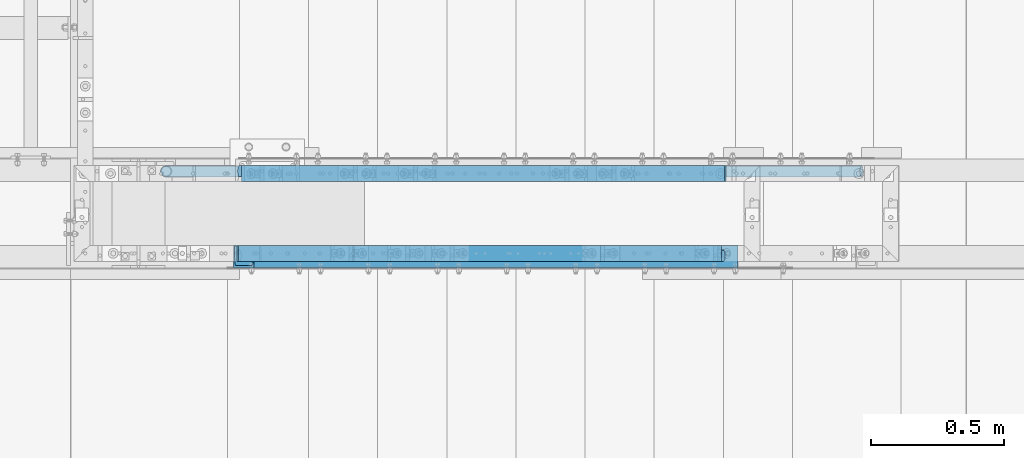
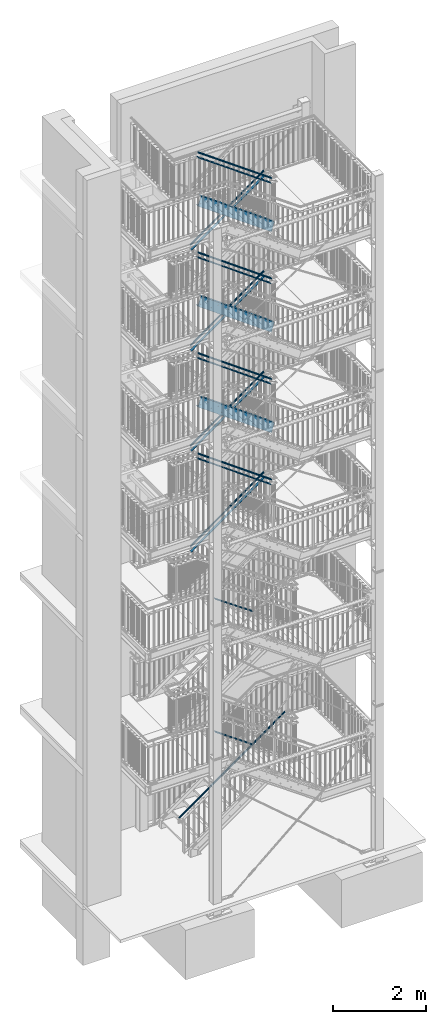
# One storey, part 124 of 831: 22 members, 48 openings.
"""IFC2X3 building model written with IfcOpenShell, lengths in millimetres."""

import ifcopenshell
import ifcopenshell.guid

model = None  # the IFC model being written
_history = None  # IfcOwnerHistory: only IFC2X3 demands one
_inside = {}  # id of a spatial element -> (the spatial element, [elements in it])
_under = {}  # id of a project, library or spatial element -> (it, [spatial elements below it])
_declared = {}  # id of a project -> (the project, [libraries it declares])
_typed = {}  # id of a type object -> (the type object, [elements of that type])
_made_of = {}  # id of a material, layer set ... -> (it, [elements and type objects made of it])


def new_model(schema):
    """Start an empty IFC model of exactly this schema.

    Asked for "IFC4X3", IfcOpenShell would pick the latest addendum, in which some entities
    have other attributes; the version numbers below select the first issue.
    IFC2X3 requires an IfcOwnerHistory on every rooted entity: one is made here for all.
    """
    global model, _history
    if schema == "IFC4X3":
        model = ifcopenshell.file(schema_version=(4, 3, 0, 0))
    else:
        model = ifcopenshell.file(schema=schema)
    _inside.clear()
    _under.clear()
    _declared.clear()
    _typed.clear()
    _made_of.clear()
    _history = None
    if model.schema == "IFC2X3":
        org = make("IfcOrganization", Name="unknown")
        user = make(
            "IfcPersonAndOrganization",
            ThePerson=make("IfcPerson", FamilyName="unknown"),
            TheOrganization=org,
        )
        app = make(
            "IfcApplication",
            ApplicationDeveloper=org,
            Version="unknown",
            ApplicationFullName="unknown",
            ApplicationIdentifier="unknown",
        )
        _history = make(
            "IfcOwnerHistory",
            OwningUser=user,
            OwningApplication=app,
            ChangeAction="ADDED",
            CreationDate=0,
        )
    return model


def make(cls, **values):
    """One entity of the class cls with the attributes given. An attribute that is None is left unset."""
    return model.create_entity(
        cls, **{name: value for name, value in values.items() if value is not None}
    )


def entity(cls, *values):
    """Any entity or typed value of the class cls, its attributes in the order of the schema. None: left unset."""
    e = model.create_entity(cls)
    for i, value in enumerate(values):
        if value is not None:
            e[i] = value
    return e


def rooted(cls, **values):
    """An entity with a GlobalId (a new one), such as an element, a storey or a relation."""
    return make(cls, GlobalId=ifcopenshell.guid.new(), OwnerHistory=_history, **values)


def si_unit(unit_type, name, prefix=None):
    """IfcSIUnit, for example si_unit("LENGTHUNIT", "METRE", prefix="MILLI")."""
    return make("IfcSIUnit", UnitType=unit_type, Prefix=prefix, Name=name)


def converted_unit(unit_type, name, factor, base, dimensions=None, offset=None):
    """IfcConversionBasedUnit, such as the inch: factor (a typed value) times the base unit."""
    return make(
        "IfcConversionBasedUnit"
        if offset is None
        else "IfcConversionBasedUnitWithOffset",
        ConversionOffset=offset,
        Dimensions=None
        if dimensions is None
        else entity("IfcDimensionalExponents", *dimensions),
        UnitType=unit_type,
        Name=name,
        ConversionFactor=make(
            "IfcMeasureWithUnit", ValueComponent=factor, UnitComponent=base
        ),
    )


def assignment(units):
    """IfcUnitAssignment: the units of a project."""
    return None if units is None else make("IfcUnitAssignment", Units=units)


def point(xyz):
    """IfcCartesianPoint."""
    return None if xyz is None else make("IfcCartesianPoint", Coordinates=xyz)


def direction(xyz):
    """IfcDirection."""
    return None if xyz is None else make("IfcDirection", DirectionRatios=xyz)


def frame(location, z_axis=None, x_axis=None):
    """IfcAxis2Placement3D, a coordinate frame: its origin and axes. An axis left out is left unset."""
    return make(
        "IfcAxis2Placement3D",
        Location=point(location),
        Axis=direction(z_axis),
        RefDirection=direction(x_axis),
    )


def frame_2d(location, x_axis=None):
    """IfcAxis2Placement2D, a coordinate frame in the plane: its origin and x axis."""
    return make(
        "IfcAxis2Placement2D", Location=point(location), RefDirection=direction(x_axis)
    )


def origin():
    """The frame at (0, 0, 0) with its axes left unset."""
    return frame((0.0, 0.0, 0.0))


def origin_with_axes():
    """The frame at (0, 0, 0) with the z axis (0, 0, 1) and the x axis (1, 0, 0) written out."""
    return frame((0.0, 0.0, 0.0), z_axis=(0.0, 0.0, 1.0), x_axis=(1.0, 0.0, 0.0))


def origin_2d():
    """The frame at (0, 0) in the plane with its x axis left unset."""
    return frame_2d((0.0, 0.0))


def origin_2d_with_axis():
    """The frame at (0, 0) in the plane with the x axis (1, 0) written out."""
    return frame_2d((0.0, 0.0), x_axis=(1.0, 0.0))


def place(relative_to, where):
    """IfcLocalPlacement: puts the frame where relative to a parent placement (None: the world)."""
    return make(
        "IfcLocalPlacement", PlacementRelTo=relative_to, RelativePlacement=where
    )


def context(
    kind, dimensions, precision=None, world=None, true_north=None, identifier=None
):
    """IfcGeometricRepresentationContext, for example the 3D "Model" context."""
    return make(
        "IfcGeometricRepresentationContext",
        ContextIdentifier=identifier,
        ContextType=kind,
        CoordinateSpaceDimension=dimensions,
        Precision=precision,
        WorldCoordinateSystem=world,
        TrueNorth=true_north,
    )


def project(units=None, contexts=None):
    """IfcProject with its units and contexts."""
    return rooted(
        "IfcProject",
        Name="project",
        RepresentationContexts=contexts,
        UnitsInContext=assignment(units),
    )


def spatial(cls, under=None, at=None, **own):
    """A site, building, storey or space (cls), placed at a placement, below another one or the project."""
    s = rooted(cls, ObjectPlacement=at, **own)
    if under is not None:
        _under.setdefault(under.id(), (under, []))[1].append(s)
    return s


def profile(cls, at=None, kind="AREA", **sizes):
    """A parametric profile (cls). Its sizes go by their IFC names, for example OverallWidth=200.0."""
    return make(cls, ProfileType=kind, Position=at, **sizes)


def rectangle(**sizes):
    """IfcRectangleProfileDef."""
    return profile("IfcRectangleProfileDef", **sizes)


def circle(**sizes):
    """IfcCircleProfileDef."""
    return profile("IfcCircleProfileDef", **sizes)


def hollow_circle(**sizes):
    """IfcCircleHollowProfileDef."""
    return profile("IfcCircleHollowProfileDef", **sizes)


def u_section(**sizes):
    """IfcUShapeProfileDef."""
    return profile("IfcUShapeProfileDef", **sizes)


def extrude(swept, where, along, depth):
    """IfcExtrudedAreaSolid: the profile swept, set in the frame where, extruded along a direction by depth."""
    return make(
        "IfcExtrudedAreaSolid",
        SweptArea=swept,
        Position=where,
        ExtrudedDirection=direction(along),
        Depth=depth,
    )


def clip(a, b, op="DIFFERENCE"):
    """IfcBooleanClippingResult: the solid a cut by the half space b."""
    return make(
        "IfcBooleanClippingResult", Operator=op, FirstOperand=a, SecondOperand=b
    )


def halfspace(plane, agree):
    """IfcHalfSpaceSolid: all space on one side of the plane z = 0 of the frame plane."""
    return make(
        "IfcHalfSpaceSolid",
        BaseSurface=make("IfcPlane", Position=plane),
        AgreementFlag=agree,
    )


def shape(context_of_items, identifier, shape_type, items):
    """IfcShapeRepresentation: the items that make up one representation, for example the "Body"."""
    return make(
        "IfcShapeRepresentation",
        ContextOfItems=context_of_items,
        RepresentationIdentifier=identifier,
        RepresentationType=shape_type,
        Items=items,
    )


def material(Name=None, Category=None):
    """IfcMaterial."""
    return make("IfcMaterial", Name=Name, Category=Category)


def made_of(thing, what):
    """Note that an element or type object is made of a material, layer set ...; save() writes the relation."""
    if what is not None:
        _made_of.setdefault(what.id(), (what, []))[1].append(thing)
    return thing


def element(
    cls,
    number,
    at=None,
    inside=None,
    cuts=None,
    type_object=None,
    material=None,
    context=None,
    identifier="Body",
    shape_type=None,
    held_by="IfcProductDefinitionShape",
    body=None,
    shapes=None,
    **own,
):
    """One element of the class cls, such as IfcWall. Its Tag is "e" and its number.

    at: its placement. inside: the storey or other place that contains it. cuts: it is an
    opening in that element (IfcRelVoidsElement). A single representation is given by context,
    identifier, shape_type and body (its items); several are given by shapes. held_by: the class
    of the entity that holds the representations. save() writes the other relations.
    """
    e = rooted(cls, Tag="e%d" % number, ObjectPlacement=at, **own)
    if body is not None:
        shapes = [shape(context, identifier, shape_type, body)]
    if shapes is not None:
        e.Representation = make(held_by, Representations=shapes)
    if inside is not None:
        _inside.setdefault(inside.id(), (inside, []))[1].append(e)
    if cuts is not None:
        rooted(
            "IfcRelVoidsElement", RelatingBuildingElement=cuts, RelatedOpeningElement=e
        )
    if type_object is not None:
        _typed.setdefault(type_object.id(), (type_object, []))[1].append(e)
    return made_of(e, material)


def aggregate(whole, parts):
    """IfcRelAggregates: a whole, such as a stair, and the parts it consists of."""
    return rooted("IfcRelAggregates", RelatingObject=whole, RelatedObjects=parts)


def save(model, path):
    """Write the relations noted so far, then the file.

    IfcRelAggregates (storeys below a building ...), IfcRelContainedInSpatialStructure (elements
    in a storey), IfcRelDefinesByType, IfcRelAssociatesMaterial and IfcRelDeclares: one each for
    every whole, place, type object, material and project.
    """
    for whole, parts in _under.values():
        aggregate(whole, parts)
    for where, things in _inside.values():
        rooted(
            "IfcRelContainedInSpatialStructure",
            RelatedElements=things,
            RelatingStructure=where,
        )
    for kind, things in _typed.values():
        rooted("IfcRelDefinesByType", RelatedObjects=things, RelatingType=kind)
    for what, things in _made_of.values():
        rooted("IfcRelAssociatesMaterial", RelatedObjects=things, RelatingMaterial=what)
    for by, libraries in _declared.values():
        rooted("IfcRelDeclares", RelatingContext=by, RelatedDefinitions=libraries)
    model.write(path)


model = new_model("IFC2X3")

# Units and contexts
model_context = context("Model", 3, precision=1e-09, world=origin_with_axes())
ifc_project = project(units=[si_unit("LENGTHUNIT", "METRE", prefix="MILLI"), si_unit("AREAUNIT", "SQUARE_METRE"), si_unit("VOLUMEUNIT", "CUBIC_METRE"), converted_unit("PLANEANGLEUNIT", "DEGREE", entity("IfcPlaneAngleMeasure", 0.01745329), si_unit("PLANEANGLEUNIT", "RADIAN"), dimensions=[0, 0, 0, 0, 0, 0, 0])], contexts=[model_context])

# Site, building, storey
site_placement = place(None, origin_with_axes())
site = spatial("IfcSite", under=ifc_project, at=site_placement, Name="Site", CompositionType="ELEMENT")
building_placement = place(site_placement, origin_with_axes())
building = spatial("IfcBuilding", under=site, at=building_placement, Name="Struktur 1", CompositionType="ELEMENT")
storey_placement = place(building_placement, origin_with_axes())
storey = spatial("IfcBuildingStorey", under=building, at=storey_placement, Name="Default Storey", CompositionType="ELEMENT", Elevation=0.0)

# Member
ifc_material = material(Name="S235JR")
member_1_placement = place(None, frame((4933.622473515, 6100.536971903, 1439.321699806), z_axis=(-0.814635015, 0.0, -0.579973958), x_axis=(0.579973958, 0.0, -0.814635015)))
element("IfcMember", 1, at=member_1_placement, inside=storey, material=ifc_material, Name="Gel?nder", ObjectType="Gel?nder", context=model_context, shape_type="Clipping", body=[
    clip(clip(extrude(hollow_circle(Radius=21.2, WallThickness=3.2, at=origin_2d()), origin(), (0.0, 0.0, -1.0), 3275.984752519), halfspace(frame((816.100663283, 6100.536971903, -2983.675065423), z_axis=(-0.304437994, 0.0, 0.952532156), x_axis=(0.0, 1.0, 0.0)), True)), halfspace(frame((-3324.976639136, 6100.536971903, 1680.625855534), z_axis=(-0.458271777, 0.0, -0.888812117), x_axis=(0.0, -1.0, 0.0)), True)),
])

# Member, openings
member_2_placement = place(None, frame((7252.657044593, 5759.036971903, 11016.099256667), z_axis=(0.810878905, 0.0, -0.585213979), x_axis=(0.0, 1.0, 0.0)))
member_2 = element("IfcMember", 2, at=member_2_placement, inside=storey, material=ifc_material, Name="Stringer#2", ObjectType="Stringer#2", context=model_context, shape_type="Clipping", body=[
    clip(clip(extrude(u_section(Depth=240.0, FlangeWidth=85.0, WebThickness=9.5, FlangeThickness=13.0, FilletRadius=13.0, EdgeRadius=6.5, FlangeSlope=4.574, at=frame_2d((20.2, 0.0))), origin(), (0.0, 0.0, -1.0), 2764.271886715), halfspace(frame((-5759.036971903, -12161.289703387, 3708.993877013), z_axis=(0.0, -0.307506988, -0.951545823), x_axis=(-1.0, 0.0, 0.0)), True)), halfspace(frame((-5759.036971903, -12818.039088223, 1676.756695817), z_axis=(0.0, 0.307506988, 0.951545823), x_axis=(1.0, 0.0, 0.0)), True)),
])
opening_1_placement = place(member_2_placement, frame((-22.8, -50.419345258, -2073.598813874), z_axis=(1.0, 0.0, 0.0), x_axis=(0.0, -0.585213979, -0.810878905)))
element("IfcOpeningElement", 3, at=opening_1_placement, cuts=member_2, ObjectType="Opening", context=model_context, shape_type="SweptSolid", body=[
    extrude(circle(Radius=7.001, at=origin_2d_with_axis()), origin(), (0.0, 0.0, 1.0), 10.5),
])
opening_2_placement = place(member_2_placement, frame((-22.8, 54.919170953, -645.081657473), z_axis=(1.0, 0.0, 0.0), x_axis=(0.0, -0.585213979, -0.810878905)))
element("IfcOpeningElement", 4, at=opening_2_placement, cuts=member_2, ObjectType="Opening", context=model_context, shape_type="SweptSolid", body=[
    extrude(circle(Radius=7.001, at=origin_2d_with_axis()), origin(), (0.0, 0.0, 1.0), 10.5),
])
opening_3_placement = place(member_2_placement, frame((-22.8, 54.919170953, -1286.361134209), z_axis=(1.0, 0.0, 0.0), x_axis=(0.0, -0.585213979, -0.810878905)))
element("IfcOpeningElement", 5, at=opening_3_placement, cuts=member_2, ObjectType="Opening", context=model_context, shape_type="SweptSolid", body=[
    extrude(circle(Radius=7.001, at=origin_2d_with_axis()), origin(), (0.0, 0.0, 1.0), 10.5),
])
opening_4_placement = place(member_2_placement, frame((-22.8, 54.919170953, -965.721395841), z_axis=(1.0, 0.0, 0.0), x_axis=(0.0, -0.585213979, -0.810878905)))
element("IfcOpeningElement", 6, at=opening_4_placement, cuts=member_2, ObjectType="Opening", context=model_context, shape_type="SweptSolid", body=[
    extrude(circle(Radius=7.001, at=origin_2d_with_axis()), origin(), (0.0, 0.0, 1.0), 10.5),
])
opening_5_placement = place(member_2_placement, frame((-22.8, -50.419345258, -1752.959075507), z_axis=(1.0, 0.0, 0.0), x_axis=(0.0, -0.585213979, -0.810878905)))
element("IfcOpeningElement", 7, at=opening_5_placement, cuts=member_2, ObjectType="Opening", context=model_context, shape_type="SweptSolid", body=[
    extrude(circle(Radius=7.001, at=origin_2d_with_axis()), origin(), (0.0, 0.0, 1.0), 10.5),
])
opening_6_placement = place(member_2_placement, frame((-22.8, 54.919170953, -1927.640610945), z_axis=(1.0, 0.0, 0.0), x_axis=(0.0, -0.585213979, -0.810878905)))
element("IfcOpeningElement", 8, at=opening_6_placement, cuts=member_2, ObjectType="Opening", context=model_context, shape_type="SweptSolid", body=[
    extrude(circle(Radius=7.001, at=origin_2d_with_axis()), origin(), (0.0, 0.0, 1.0), 10.5),
])
opening_7_placement = place(member_2_placement, frame((-22.8, -50.419345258, -1111.679598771), z_axis=(1.0, 0.0, 0.0), x_axis=(0.0, -0.585213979, -0.810878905)))
element("IfcOpeningElement", 9, at=opening_7_placement, cuts=member_2, ObjectType="Opening", context=model_context, shape_type="SweptSolid", body=[
    extrude(circle(Radius=7.001, at=origin_2d_with_axis()), origin(), (0.0, 0.0, 1.0), 10.5),
])
opening_8_placement = place(member_2_placement, frame((-22.8, -50.419345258, -791.039860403), z_axis=(1.0, 0.0, 0.0), x_axis=(0.0, -0.585213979, -0.810878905)))
element("IfcOpeningElement", 10, at=opening_8_placement, cuts=member_2, ObjectType="Opening", context=model_context, shape_type="SweptSolid", body=[
    extrude(circle(Radius=7.001, at=origin_2d_with_axis()), origin(), (0.0, 0.0, 1.0), 10.5),
])
opening_9_placement = place(member_2_placement, frame((-22.8, 54.919170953, -2248.280349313), z_axis=(1.0, 0.0, 0.0), x_axis=(0.0, -0.585213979, -0.810878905)))
element("IfcOpeningElement", 11, at=opening_9_placement, cuts=member_2, ObjectType="Opening", context=model_context, shape_type="SweptSolid", body=[
    extrude(circle(Radius=7.001, at=origin_2d_with_axis()), origin(), (0.0, 0.0, 1.0), 10.5),
])
opening_10_placement = place(member_2_placement, frame((-22.8, 54.919170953, -1607.000872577), z_axis=(1.0, 0.0, 0.0), x_axis=(0.0, -0.585213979, -0.810878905)))
element("IfcOpeningElement", 12, at=opening_10_placement, cuts=member_2, ObjectType="Opening", context=model_context, shape_type="SweptSolid", body=[
    extrude(circle(Radius=7.001, at=origin_2d_with_axis()), origin(), (0.0, 0.0, 1.0), 10.5),
])
opening_11_placement = place(member_2_placement, frame((-22.8, -50.419345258, -1432.319337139), z_axis=(1.0, 0.0, 0.0), x_axis=(0.0, -0.585213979, -0.810878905)))
element("IfcOpeningElement", 13, at=opening_11_placement, cuts=member_2, ObjectType="Opening", context=model_context, shape_type="SweptSolid", body=[
    extrude(circle(Radius=7.001, at=origin_2d_with_axis()), origin(), (0.0, 0.0, 1.0), 10.5),
])
opening_12_placement = place(member_2_placement, frame((-22.8, -50.419345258, -2394.238552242), z_axis=(1.0, 0.0, 0.0), x_axis=(0.0, -0.585213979, -0.810878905)))
element("IfcOpeningElement", 14, at=opening_12_placement, cuts=member_2, ObjectType="Opening", context=model_context, shape_type="SweptSolid", body=[
    extrude(circle(Radius=7.001, at=origin_2d_with_axis()), origin(), (0.0, 0.0, 1.0), 10.5),
])
opening_13_placement = place(member_2_placement, frame((32.7, 120.5, -422.66807384), z_axis=(0.0, 1.0, 0.0), x_axis=(-1.0, 0.0, 0.0)))
element("IfcOpeningElement", 15, at=opening_13_placement, cuts=member_2, ObjectType="Opening", context=model_context, shape_type="SweptSolid", body=[
    extrude(circle(Radius=7.001, at=frame_2d((0.0, -7.001), x_axis=(1.0, 0.0))), origin(), (0.0, 0.0, -1.0), 14.0),
])
opening_14_placement = place(member_2_placement, frame((32.7, 120.5, -322.66807384), z_axis=(0.0, 1.0, 0.0), x_axis=(-1.0, 0.0, 0.0)))
element("IfcOpeningElement", 16, at=opening_14_placement, cuts=member_2, ObjectType="Opening", context=model_context, shape_type="SweptSolid", body=[
    extrude(circle(Radius=7.001, at=frame_2d((0.0, -7.001), x_axis=(1.0, 0.0))), origin(), (0.0, 0.0, -1.0), 14.0),
])
opening_15_placement = place(member_2_placement, frame((32.7, 120.5, -1850.132141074), z_axis=(0.0, 1.0, 0.0), x_axis=(-1.0, 0.0, 0.0)))
element("IfcOpeningElement", 17, at=opening_15_placement, cuts=member_2, ObjectType="Opening", context=model_context, shape_type="SweptSolid", body=[
    extrude(circle(Radius=7.001, at=frame_2d((0.0, -7.001), x_axis=(1.0, 0.0))), origin(), (0.0, 0.0, -1.0), 14.000000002),
])
opening_16_placement = place(member_2_placement, frame((32.7, 120.500000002, -1750.132141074), z_axis=(0.0, 1.0, 0.0), x_axis=(-1.0, 0.0, 0.0)))
element("IfcOpeningElement", 18, at=opening_16_placement, cuts=member_2, ObjectType="Opening", context=model_context, shape_type="SweptSolid", body=[
    extrude(circle(Radius=7.001, at=frame_2d((0.0, -7.001), x_axis=(1.0, 0.0))), origin(), (0.0, 0.0, -1.0), 14.000000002),
])

member_3_placement = place(None, frame((7252.177764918, 5759.036971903, 13646.861065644), z_axis=(0.810033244, 0.0, -0.586383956), x_axis=(0.0, 1.0, 0.0)))
member_3 = element("IfcMember", 19, at=member_3_placement, inside=storey, material=ifc_material, Name="Stringer#2", ObjectType="Stringer#2", context=model_context, shape_type="Clipping", body=[
    clip(clip(extrude(u_section(Depth=240.0, FlangeWidth=85.0, WebThickness=9.5, FlangeThickness=13.0, FilletRadius=13.0, EdgeRadius=6.5, FlangeSlope=4.574, at=frame_2d((20.2, 0.0))), origin(), (0.0, 0.0, -1.0), 2766.736495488), halfspace(frame((-5759.036971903, -14541.73622123, 4489.902696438), z_axis=(0.0, -0.308193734, -0.951323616), x_axis=(-1.0, 0.0, 0.0)), True)), halfspace(frame((-5759.036971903, -15200.485604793, 2456.493916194), z_axis=(0.0, 0.308193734, 0.951323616), x_axis=(1.0, 0.0, 0.0)), True)),
])
opening_17_placement = place(member_3_placement, frame((-22.8, -50.624378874, -2395.925170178), z_axis=(1.0, 0.0, 0.0), x_axis=(0.0, -0.586383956, -0.810033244)))
element("IfcOpeningElement", 20, at=opening_17_placement, cuts=member_3, ObjectType="Opening", context=model_context, shape_type="SweptSolid", body=[
    extrude(circle(Radius=7.001, at=origin_2d_with_axis()), origin(), (0.0, 0.0, 1.0), 10.5),
])
opening_18_placement = place(member_3_placement, frame((-22.8, -50.624378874, -1433.001727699), z_axis=(1.0, 0.0, 0.0), x_axis=(0.0, -0.586383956, -0.810033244)))
element("IfcOpeningElement", 21, at=opening_18_placement, cuts=member_3, ObjectType="Opening", context=model_context, shape_type="SweptSolid", body=[
    extrude(circle(Radius=7.001, at=origin_2d_with_axis()), origin(), (0.0, 0.0, 1.0), 10.5),
])
opening_19_placement = place(member_3_placement, frame((-22.8, -50.624378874, -2074.950689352), z_axis=(1.0, 0.0, 0.0), x_axis=(0.0, -0.586383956, -0.810033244)))
element("IfcOpeningElement", 22, at=opening_19_placement, cuts=member_3, ObjectType="Opening", context=model_context, shape_type="SweptSolid", body=[
    extrude(circle(Radius=7.001, at=origin_2d_with_axis()), origin(), (0.0, 0.0, 1.0), 10.5),
])
opening_20_placement = place(member_3_placement, frame((-22.8, 54.924733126, -1608.170224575), z_axis=(1.0, 0.0, 0.0), x_axis=(0.0, -0.586383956, -0.810033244)))
element("IfcOpeningElement", 23, at=opening_20_placement, cuts=member_3, ObjectType="Opening", context=model_context, shape_type="SweptSolid", body=[
    extrude(circle(Radius=7.001, at=origin_2d_with_axis()), origin(), (0.0, 0.0, 1.0), 10.5),
])
opening_21_placement = place(member_3_placement, frame((-22.8, 54.924733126, -1929.144705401), z_axis=(1.0, 0.0, 0.0), x_axis=(0.0, -0.586383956, -0.810033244)))
element("IfcOpeningElement", 24, at=opening_21_placement, cuts=member_3, ObjectType="Opening", context=model_context, shape_type="SweptSolid", body=[
    extrude(circle(Radius=7.001, at=origin_2d_with_axis()), origin(), (0.0, 0.0, 1.0), 10.5),
])
opening_22_placement = place(member_3_placement, frame((-22.8, -50.624378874, -1753.976208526), z_axis=(1.0, 0.0, 0.0), x_axis=(0.0, -0.586383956, -0.810033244)))
element("IfcOpeningElement", 25, at=opening_22_placement, cuts=member_3, ObjectType="Opening", context=model_context, shape_type="SweptSolid", body=[
    extrude(circle(Radius=7.001, at=origin_2d_with_axis()), origin(), (0.0, 0.0, 1.0), 10.5),
])
opening_23_placement = place(member_3_placement, frame((-22.8, 54.924733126, -966.221262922), z_axis=(1.0, 0.0, 0.0), x_axis=(0.0, -0.586383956, -0.810033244)))
element("IfcOpeningElement", 26, at=opening_23_placement, cuts=member_3, ObjectType="Opening", context=model_context, shape_type="SweptSolid", body=[
    extrude(circle(Radius=7.001, at=origin_2d_with_axis()), origin(), (0.0, 0.0, 1.0), 10.5),
])
opening_24_placement = place(member_3_placement, frame((-22.8, 54.924733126, -1287.195743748), z_axis=(1.0, 0.0, 0.0), x_axis=(0.0, -0.586383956, -0.810033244)))
element("IfcOpeningElement", 27, at=opening_24_placement, cuts=member_3, ObjectType="Opening", context=model_context, shape_type="SweptSolid", body=[
    extrude(circle(Radius=7.001, at=origin_2d_with_axis()), origin(), (0.0, 0.0, 1.0), 10.5),
])
opening_25_placement = place(member_3_placement, frame((-22.8, 54.924733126, -2250.119186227), z_axis=(1.0, 0.0, 0.0), x_axis=(0.0, -0.586383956, -0.810033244)))
element("IfcOpeningElement", 28, at=opening_25_placement, cuts=member_3, ObjectType="Opening", context=model_context, shape_type="SweptSolid", body=[
    extrude(circle(Radius=7.001, at=origin_2d_with_axis()), origin(), (0.0, 0.0, 1.0), 10.5),
])
opening_26_placement = place(member_3_placement, frame((-22.8, -50.624378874, -791.052766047), z_axis=(1.0, 0.0, 0.0), x_axis=(0.0, -0.586383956, -0.810033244)))
element("IfcOpeningElement", 29, at=opening_26_placement, cuts=member_3, ObjectType="Opening", context=model_context, shape_type="SweptSolid", body=[
    extrude(circle(Radius=7.001, at=origin_2d_with_axis()), origin(), (0.0, 0.0, 1.0), 10.5),
])
opening_27_placement = place(member_3_placement, frame((-22.8, -50.624378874, -1112.027246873), z_axis=(1.0, 0.0, 0.0), x_axis=(0.0, -0.586383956, -0.810033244)))
element("IfcOpeningElement", 30, at=opening_27_placement, cuts=member_3, ObjectType="Opening", context=model_context, shape_type="SweptSolid", body=[
    extrude(circle(Radius=7.001, at=origin_2d_with_axis()), origin(), (0.0, 0.0, 1.0), 10.5),
])
opening_28_placement = place(member_3_placement, frame((-22.8, 54.924733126, -645.246782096), z_axis=(1.0, 0.0, 0.0), x_axis=(0.0, -0.586383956, -0.810033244)))
element("IfcOpeningElement", 31, at=opening_28_placement, cuts=member_3, ObjectType="Opening", context=model_context, shape_type="SweptSolid", body=[
    extrude(circle(Radius=7.001, at=origin_2d_with_axis()), origin(), (0.0, 0.0, 1.0), 10.5),
])
opening_29_placement = place(member_3_placement, frame((32.7, 120.5, -422.640681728), z_axis=(0.0, 1.0, 0.0), x_axis=(-1.0, 0.0, 0.0)))
element("IfcOpeningElement", 32, at=opening_29_placement, cuts=member_3, ObjectType="Opening", context=model_context, shape_type="SweptSolid", body=[
    extrude(circle(Radius=7.001, at=frame_2d((0.0, -7.001), x_axis=(1.0, 0.0))), origin(), (0.0, 0.0, -1.0), 14.0),
])
opening_30_placement = place(member_3_placement, frame((32.7, 120.5, -322.640681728), z_axis=(0.0, 1.0, 0.0), x_axis=(-1.0, 0.0, 0.0)))
element("IfcOpeningElement", 33, at=opening_30_placement, cuts=member_3, ObjectType="Opening", context=model_context, shape_type="SweptSolid", body=[
    extrude(circle(Radius=7.001, at=frame_2d((0.0, -7.001), x_axis=(1.0, 0.0))), origin(), (0.0, 0.0, -1.0), 14.0),
])
opening_31_placement = place(member_3_placement, frame((32.7, 120.5, -1851.59499728), z_axis=(0.0, 1.0, 0.0), x_axis=(-1.0, 0.0, 0.0)))
element("IfcOpeningElement", 34, at=opening_31_placement, cuts=member_3, ObjectType="Opening", context=model_context, shape_type="SweptSolid", body=[
    extrude(circle(Radius=7.001, at=frame_2d((0.0, -7.001), x_axis=(1.0, 0.0))), origin(), (0.0, 0.0, -1.0), 14.0),
])
opening_32_placement = place(member_3_placement, frame((32.7, 120.5, -1751.59499728), z_axis=(0.0, 1.0, 0.0), x_axis=(-1.0, 0.0, 0.0)))
element("IfcOpeningElement", 35, at=opening_32_placement, cuts=member_3, ObjectType="Opening", context=model_context, shape_type="SweptSolid", body=[
    extrude(circle(Radius=7.001, at=frame_2d((0.0, -7.001), x_axis=(1.0, 0.0))), origin(), (0.0, 0.0, -1.0), 14.0),
])

member_4_placement = place(None, frame((7253.077573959, 5759.036971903, 16274.808313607), z_axis=(0.811618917, 0.0, -0.584187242), x_axis=(0.0, 1.0, 0.0)))
member_4 = element("IfcMember", 36, at=member_4_placement, inside=storey, material=ifc_material, Name="Stringer#2", ObjectType="Stringer#2", context=model_context, shape_type="Clipping", body=[
    clip(clip(extrude(u_section(Depth=240.0, FlangeWidth=85.0, WebThickness=9.5, FlangeThickness=13.0, FilletRadius=13.0, EdgeRadius=6.5, FlangeSlope=4.574, at=frame_2d((20.2, 0.0))), origin(), (0.0, 0.0, -1.0), 2762.119260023), halfspace(frame((-5759.036971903, -16925.049146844, 5236.620334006), z_axis=(0.0, -0.306904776, -0.951740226), x_axis=(-1.0, 0.0, 0.0)), True)), halfspace(frame((-5759.036971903, -17580.048532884, 3205.40637968), z_axis=(0.0, 0.306904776, 0.951740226), x_axis=(1.0, 0.0, 0.0)), True)),
])
opening_33_placement = place(member_4_placement, frame((-22.8, 54.914406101, -1285.633497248), z_axis=(1.0, 0.0, 0.0), x_axis=(0.0, -0.584187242, -0.811618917)))
element("IfcOpeningElement", 37, at=opening_33_placement, cuts=member_4, ObjectType="Opening", context=model_context, shape_type="SweptSolid", body=[
    extrude(circle(Radius=7.001, at=origin_2d_with_axis()), origin(), (0.0, 0.0, 1.0), 10.5),
])
opening_34_placement = place(member_4_placement, frame((-22.8, 54.914406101, -965.286109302), z_axis=(1.0, 0.0, 0.0), x_axis=(0.0, -0.584187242, -0.811618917)))
element("IfcOpeningElement", 38, at=opening_34_placement, cuts=member_4, ObjectType="Opening", context=model_context, shape_type="SweptSolid", body=[
    extrude(circle(Radius=7.001, at=origin_2d_with_axis()), origin(), (0.0, 0.0, 1.0), 10.5),
])
opening_35_placement = place(member_4_placement, frame((-22.8, -50.23929749, -1431.72490227), z_axis=(1.0, 0.0, 0.0), x_axis=(0.0, -0.584187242, -0.811618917)))
element("IfcOpeningElement", 39, at=opening_35_placement, cuts=member_4, ObjectType="Opening", context=model_context, shape_type="SweptSolid", body=[
    extrude(circle(Radius=7.001, at=origin_2d_with_axis()), origin(), (0.0, 0.0, 1.0), 10.5),
])
opening_36_placement = place(member_4_placement, frame((-22.8, 54.914406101, -2246.675661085), z_axis=(1.0, 0.0, 0.0), x_axis=(0.0, -0.584187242, -0.811618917)))
element("IfcOpeningElement", 40, at=opening_36_placement, cuts=member_4, ObjectType="Opening", context=model_context, shape_type="SweptSolid", body=[
    extrude(circle(Radius=7.001, at=origin_2d_with_axis()), origin(), (0.0, 0.0, 1.0), 10.5),
])
opening_37_placement = place(member_4_placement, frame((-22.8, -50.23929749, -2072.419678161), z_axis=(1.0, 0.0, 0.0), x_axis=(0.0, -0.584187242, -0.811618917)))
element("IfcOpeningElement", 41, at=opening_37_placement, cuts=member_4, ObjectType="Opening", context=model_context, shape_type="SweptSolid", body=[
    extrude(circle(Radius=7.001, at=origin_2d_with_axis()), origin(), (0.0, 0.0, 1.0), 10.5),
])
opening_38_placement = place(member_4_placement, frame((-22.8, 54.914406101, -1605.980885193), z_axis=(1.0, 0.0, 0.0), x_axis=(0.0, -0.584187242, -0.811618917)))
element("IfcOpeningElement", 42, at=opening_38_placement, cuts=member_4, ObjectType="Opening", context=model_context, shape_type="SweptSolid", body=[
    extrude(circle(Radius=7.001, at=origin_2d_with_axis()), origin(), (0.0, 0.0, 1.0), 10.5),
])
opening_39_placement = place(member_4_placement, frame((-22.8, -50.23929749, -791.030126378), z_axis=(1.0, 0.0, 0.0), x_axis=(0.0, -0.584187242, -0.811618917)))
element("IfcOpeningElement", 43, at=opening_39_placement, cuts=member_4, ObjectType="Opening", context=model_context, shape_type="SweptSolid", body=[
    extrude(circle(Radius=7.001, at=origin_2d_with_axis()), origin(), (0.0, 0.0, 1.0), 10.5),
])
opening_40_placement = place(member_4_placement, frame((-22.8, -50.23929749, -1111.377514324), z_axis=(1.0, 0.0, 0.0), x_axis=(0.0, -0.584187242, -0.811618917)))
element("IfcOpeningElement", 44, at=opening_40_placement, cuts=member_4, ObjectType="Opening", context=model_context, shape_type="SweptSolid", body=[
    extrude(circle(Radius=7.001, at=origin_2d_with_axis()), origin(), (0.0, 0.0, 1.0), 10.5),
])
opening_41_placement = place(member_4_placement, frame((-22.8, -50.23929749, -2392.767066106), z_axis=(1.0, 0.0, 0.0), x_axis=(0.0, -0.584187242, -0.811618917)))
element("IfcOpeningElement", 45, at=opening_41_placement, cuts=member_4, ObjectType="Opening", context=model_context, shape_type="SweptSolid", body=[
    extrude(circle(Radius=7.001, at=origin_2d_with_axis()), origin(), (0.0, 0.0, 1.0), 10.5),
])
opening_42_placement = place(member_4_placement, frame((-22.8, 54.914406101, -644.938721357), z_axis=(1.0, 0.0, 0.0), x_axis=(0.0, -0.584187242, -0.811618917)))
element("IfcOpeningElement", 46, at=opening_42_placement, cuts=member_4, ObjectType="Opening", context=model_context, shape_type="SweptSolid", body=[
    extrude(circle(Radius=7.001, at=origin_2d_with_axis()), origin(), (0.0, 0.0, 1.0), 10.5),
])
opening_43_placement = place(member_4_placement, frame((-22.8, 54.914406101, -1926.328273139), z_axis=(1.0, 0.0, 0.0), x_axis=(0.0, -0.584187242, -0.811618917)))
element("IfcOpeningElement", 47, at=opening_43_placement, cuts=member_4, ObjectType="Opening", context=model_context, shape_type="SweptSolid", body=[
    extrude(circle(Radius=7.001, at=origin_2d_with_axis()), origin(), (0.0, 0.0, 1.0), 10.5),
])
opening_44_placement = place(member_4_placement, frame((-22.8, -50.23929749, -1752.072290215), z_axis=(1.0, 0.0, 0.0), x_axis=(0.0, -0.584187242, -0.811618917)))
element("IfcOpeningElement", 48, at=opening_44_placement, cuts=member_4, ObjectType="Opening", context=model_context, shape_type="SweptSolid", body=[
    extrude(circle(Radius=7.001, at=origin_2d_with_axis()), origin(), (0.0, 0.0, 1.0), 10.5),
])
opening_45_placement = place(member_4_placement, frame((32.7, 120.5, -422.692952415), z_axis=(0.0, 1.0, 0.0), x_axis=(-1.0, 0.0, 0.0)))
element("IfcOpeningElement", 49, at=opening_45_placement, cuts=member_4, ObjectType="Opening", context=model_context, shape_type="SweptSolid", body=[
    extrude(circle(Radius=7.001, at=frame_2d((0.0, -7.001), x_axis=(1.0, 0.0))), origin(), (0.0, 0.0, -1.0), 14.0),
])
opening_46_placement = place(member_4_placement, frame((32.7, 120.5, -322.692952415), z_axis=(0.0, 1.0, 0.0), x_axis=(-1.0, 0.0, 0.0)))
element("IfcOpeningElement", 50, at=opening_46_placement, cuts=member_4, ObjectType="Opening", context=model_context, shape_type="SweptSolid", body=[
    extrude(circle(Radius=7.001, at=frame_2d((0.0, -7.001), x_axis=(1.0, 0.0))), origin(), (0.0, 0.0, -1.0), 14.0),
])
opening_47_placement = place(member_4_placement, frame((32.7, 120.5, -1644.017676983), z_axis=(0.0, 1.0, 0.0), x_axis=(-1.0, 0.0, 0.0)))
element("IfcOpeningElement", 51, at=opening_47_placement, cuts=member_4, ObjectType="Opening", context=model_context, shape_type="SweptSolid", body=[
    extrude(circle(Radius=7.001, at=frame_2d((0.0, -7.001), x_axis=(1.0, 0.0))), origin(), (0.0, 0.0, -1.0), 14.0),
])
opening_48_placement = place(member_4_placement, frame((32.7, 120.5, -1544.017676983), z_axis=(0.0, 1.0, 0.0), x_axis=(-1.0, 0.0, 0.0)))
element("IfcOpeningElement", 52, at=opening_48_placement, cuts=member_4, ObjectType="Opening", context=model_context, shape_type="SweptSolid", body=[
    extrude(circle(Radius=7.001, at=frame_2d((0.0, -7.001), x_axis=(1.0, 0.0))), origin(), (0.0, 0.0, -1.0), 14.0),
])

# Members
member_5_placement = place(None, frame((5211.177138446, 6100.536971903, 8441.535316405), z_axis=(-0.810350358, 0.0, -0.585945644), x_axis=(0.585945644, 0.0, -0.810350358)))
element("IfcMember", 53, at=member_5_placement, inside=storey, material=ifc_material, Name="Gel?nder", ObjectType="Gel?nder", context=model_context, shape_type="Clipping", body=[
    clip(clip(extrude(hollow_circle(Radius=21.2, WallThickness=3.2, at=origin_2d()), origin(), (0.0, 0.0, -1.0), 2308.967362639), halfspace(frame((6781.567004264, 6100.536971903, -82.503068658), z_axis=(-0.307936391, 0.0, 0.951406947), x_axis=(0.0, 1.0, 0.0)), True)), halfspace(frame((6123.567620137, 6100.536971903, 1950.466087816), z_axis=(0.307936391, 0.0, -0.951406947), x_axis=(0.0, -1.0, 0.0)), True)),
])
member_6_placement = place(None, frame((5211.164211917, 6100.536971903, 11073.561064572), z_axis=(-0.810878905, 0.0, -0.585213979), x_axis=(0.585213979, 0.0, -0.810878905)))
element("IfcMember", 54, at=member_6_placement, inside=storey, material=ifc_material, Name="Gel?nder", ObjectType="Gel?nder", context=model_context, shape_type="Clipping", body=[
    clip(clip(extrude(hollow_circle(Radius=21.2, WallThickness=3.2, at=origin_2d()), origin(), (0.0, 0.0, -1.0), 2307.494214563), halfspace(frame((9167.585155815, 6100.536971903, 686.664086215), z_axis=(-0.307506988, 0.0, 0.951545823), x_axis=(0.0, 1.0, 0.0)), True)), halfspace(frame((8510.835770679, 6100.536971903, 2718.901267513), z_axis=(0.307506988, 0.0, -0.951545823), x_axis=(0.0, -1.0, 0.0)), True)),
])
member_7_placement = place(None, frame((5211.184895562, 6100.536971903, 13700.519885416), z_axis=(-0.810033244, 0.0, -0.586383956), x_axis=(0.586383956, 0.0, -0.810033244)))
element("IfcMember", 55, at=member_7_placement, inside=storey, material=ifc_material, Name="Gel?nder", ObjectType="Gel?nder", context=model_context, shape_type="Clipping", body=[
    clip(clip(extrude(hollow_circle(Radius=21.2, WallThickness=3.2, at=origin_2d()), origin(), (0.0, 0.0, -1.0), 2309.852130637), halfspace(frame((11539.310370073, 6100.536971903, 1459.974901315), z_axis=(-0.308193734, 0.0, 0.951323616), x_axis=(0.0, 1.0, 0.0)), True)), halfspace(frame((10880.56098641, 6100.536971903, 3493.383681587), z_axis=(0.308193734, 0.0, -0.951323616), x_axis=(0.0, -1.0, 0.0)), True)),
])
member_8_placement = place(None, frame((5211.146119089, 6100.536971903, 16335.597174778), z_axis=(-0.811618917, 0.0, -0.584187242), x_axis=(0.584187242, 0.0, -0.811618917)))
element("IfcMember", 56, at=member_8_placement, inside=storey, material=ifc_material, Name="Gel?nder", ObjectType="Gel?nder", context=model_context, shape_type="Clipping", body=[
    clip(clip(extrude(hollow_circle(Radius=21.2, WallThickness=3.2, at=origin_2d()), origin(), (0.0, 0.0, -1.0), 2305.43489061), halfspace(frame((13938.996995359, 6100.536971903, 2220.933713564), z_axis=(-0.306904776, 0.0, 0.951740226), x_axis=(0.0, 1.0, 0.0)), True)), halfspace(frame((13283.997609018, 6100.536971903, 4252.147668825), z_axis=(0.306904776, 0.0, -0.951740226), x_axis=(0.0, -1.0, 0.0)), True)),
])
member_9_placement = place(None, frame((6591.314199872, 5791.736971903, 3002.391345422), z_axis=(0.814635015, 0.0, -0.579973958), x_axis=(-0.579973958, 0.0, -0.814635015)))
element("IfcMember", 57, at=member_9_placement, inside=storey, material=ifc_material, Name="Railing_Kneerail_Stair#3", ObjectType="Railing_Kneerail_Stair#3", context=model_context, shape_type="SweptSolid", body=[
    extrude(rectangle(XDim=10.0, YDim=60.0, at=origin_2d()), origin(), (0.0, 0.0, -1.0), 1134.496524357),
])
member_10_placement = place(None, frame((6591.338428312, 5791.736971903, 6487.105207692), z_axis=(0.818063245, 0.0, -0.57512827), x_axis=(-0.57512827, 0.0, -0.818063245)))
element("IfcMember", 58, at=member_10_placement, inside=storey, material=ifc_material, Name="Railing_Kneerail_Stair#3", ObjectType="Railing_Kneerail_Stair#3", context=model_context, shape_type="SweptSolid", body=[
    extrude(rectangle(XDim=10.0, YDim=60.0, at=origin_2d()), origin(), (0.0, 0.0, -1.0), 1129.801461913),
])
member_11_placement = place(None, frame((7082.24966754, 5782.936971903, 9757.535316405), z_axis=(0.810350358, 0.0, -0.585945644), x_axis=(-0.585945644, 0.0, -0.810350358)))
element("IfcMember", 59, at=member_11_placement, inside=storey, material=ifc_material, Name="Gel?nder", ObjectType="Gel?nder", context=model_context, shape_type="Clipping", body=[
    clip(clip(extrude(hollow_circle(Radius=21.2, WallThickness=3.2, at=origin_2d()), origin(), (0.0, 0.0, -1.0), 2308.967362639), halfspace(frame((10916.418096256, -5782.936971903, 3501.740317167), z_axis=(0.307936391, 0.0, -0.951406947), x_axis=(0.0, -1.0, 0.0)), True)), halfspace(frame((11574.417480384, -5782.936971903, 1468.771160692), z_axis=(-0.307936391, 0.0, 0.951406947), x_axis=(0.0, 1.0, 0.0)), True)),
])
member_12_placement = place(None, frame((7082.262594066, 5782.936971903, 12387.061064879), z_axis=(0.810878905, 0.0, -0.585213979), x_axis=(-0.585213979, 0.0, -0.810878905)))
element("IfcMember", 60, at=member_12_placement, inside=storey, material=ifc_material, Name="Gel?nder", ObjectType="Gel?nder", context=model_context, shape_type="Clipping", body=[
    clip(clip(extrude(hollow_circle(Radius=21.2, WallThickness=3.2, at=origin_2d()), origin(), (0.0, 0.0, -1.0), 2307.494214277), halfspace(frame((13954.022486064, -5782.936971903, 2233.476534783), z_axis=(-0.307506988, 0.0, 0.951545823), x_axis=(0.0, 1.0, 0.0)), True)), halfspace(frame((13297.273101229, -5782.936971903, 4265.71371598), z_axis=(0.307506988, 0.0, -0.951545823), x_axis=(0.0, -1.0, 0.0)), True)),
])
member_13_placement = place(None, frame((7082.241910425, 5782.936971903, 15018.019885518), z_axis=(0.810033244, 0.0, -0.586383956), x_axis=(-0.586383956, 0.0, -0.810033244)))
element("IfcMember", 61, at=member_13_placement, inside=storey, material=ifc_material, Name="Gel?nder", ObjectType="Gel?nder", context=model_context, shape_type="Clipping", body=[
    clip(clip(extrude(hollow_circle(Radius=21.2, WallThickness=3.2, at=origin_2d()), origin(), (0.0, 0.0, -1.0), 2309.852130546), halfspace(frame((15677.254505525, -5782.936971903, 5047.335316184), z_axis=(0.308193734, 0.0, -0.951323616), x_axis=(0.0, -1.0, 0.0)), True)), halfspace(frame((16336.003889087, -5782.936971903, 3013.926535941), z_axis=(-0.308193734, 0.0, 0.951323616), x_axis=(0.0, 1.0, 0.0)), True)),
])
member_14_placement = place(None, frame((7082.280686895, 5782.936971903, 17645.597175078), z_axis=(0.811618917, 0.0, -0.584187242), x_axis=(-0.584187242, 0.0, -0.811618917)))
element("IfcMember", 62, at=member_14_placement, inside=storey, material=ifc_material, Name="Gel?nder", ObjectType="Gel?nder", context=model_context, shape_type="Clipping", body=[
    clip(clip(extrude(hollow_circle(Radius=21.2, WallThickness=3.2, at=origin_2d()), origin(), (0.0, 0.0, -1.0), 2305.43488958), halfspace(frame((18716.438937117, -5782.936971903, 3761.500887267), z_axis=(-0.306904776, 0.0, 0.951740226), x_axis=(0.0, 1.0, 0.0)), True)), halfspace(frame((18061.439551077, -5782.936971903, 5792.714841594), z_axis=(0.306904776, 0.0, -0.951740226), x_axis=(0.0, -1.0, 0.0)), True)),
])
member_15_placement = place(None, frame((7046.956167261, 5791.736971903, 17538.741905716), z_axis=(0.811618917, 0.0, -0.584187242), x_axis=(-0.584187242, 0.0, -0.811618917)))
element("IfcMember", 63, at=member_15_placement, inside=storey, material=ifc_material, Name="Railing_Kneerail_Stair#1003", ObjectType="Railing_Kneerail_Stair#1003", context=model_context, shape_type="SweptSolid", body=[
    extrude(rectangle(XDim=10.0, YDim=60.0, at=origin_2d()), origin(), (0.0, 0.0, -1.0), 2239.207046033),
])
member_16_placement = place(None, frame((5246.470638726, 6091.736971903, 16228.741905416), z_axis=(-0.811618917, 0.0, -0.584187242), x_axis=(0.584187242, 0.0, -0.811618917)))
element("IfcMember", 64, at=member_16_placement, inside=storey, material=ifc_material, Name="Railing_Kneerail_Stair#1003", ObjectType="Railing_Kneerail_Stair#1003", context=model_context, shape_type="SweptSolid", body=[
    extrude(rectangle(XDim=10.0, YDim=60.0, at=origin_2d()), origin(), (0.0, 0.0, -1.0), 2239.207047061),
])
member_17_placement = place(None, frame((7046.913465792, 5791.736971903, 14911.249833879), z_axis=(0.810033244, 0.0, -0.586383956), x_axis=(-0.586383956, 0.0, -0.810033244)))
element("IfcMember", 65, at=member_17_placement, inside=storey, material=ifc_material, Name="Railing_Kneerail_Stair#1001", ObjectType="Railing_Kneerail_Stair#1001", context=model_context, shape_type="SweptSolid", body=[
    extrude(rectangle(XDim=10.0, YDim=60.0, at=origin_2d()), origin(), (0.0, 0.0, -1.0), 2243.581734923),
])
member_18_placement = place(None, frame((5246.513340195, 6091.736971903, 13593.749833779), z_axis=(-0.810033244, 0.0, -0.586383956), x_axis=(0.586383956, 0.0, -0.810033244)))
element("IfcMember", 66, at=member_18_placement, inside=storey, material=ifc_material, Name="Railing_Kneerail_Stair#1003", ObjectType="Railing_Kneerail_Stair#1003", context=model_context, shape_type="SweptSolid", body=[
    extrude(rectangle(XDim=10.0, YDim=60.0, at=origin_2d()), origin(), (0.0, 0.0, -1.0), 2243.581735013),
])
member_19_placement = place(None, frame((7046.936219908, 5791.736971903, 12280.245605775), z_axis=(0.810878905, 0.0, -0.585213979), x_axis=(-0.585213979, 0.0, -0.810878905)))
element("IfcMember", 67, at=member_19_placement, inside=storey, material=ifc_material, Name="Railing_Kneerail_Stair#1003", ObjectType="Railing_Kneerail_Stair#1003", context=model_context, shape_type="SweptSolid", body=[
    extrude(rectangle(XDim=10.0, YDim=60.0, at=origin_2d()), origin(), (0.0, 0.0, -1.0), 2241.246511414),
])
member_20_placement = place(None, frame((5246.490586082, 6091.736971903, 10966.745605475), z_axis=(-0.810878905, 0.0, -0.585213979), x_axis=(0.585213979, 0.0, -0.810878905)))
element("IfcMember", 68, at=member_20_placement, inside=storey, material=ifc_material, Name="Railing_Kneerail_Stair#1003", ObjectType="Railing_Kneerail_Stair#1003", context=model_context, shape_type="SweptSolid", body=[
    extrude(rectangle(XDim=10.0, YDim=60.0, at=origin_2d()), origin(), (0.0, 0.0, -1.0), 2241.246511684),
])
for number, where, z_axis, x_axis, name in (
    (69, (7046.92199323, 5791.736971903, 9650.74824821), (0.810350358, 0.0, -0.585945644), (-0.585945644, 0.0, -0.810350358), "Railing_Kneerail_Stair#1003"),
    (70, (5246.504812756, 6091.736971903, 8334.74824821), (-0.810350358, 0.0, -0.585945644), (0.585945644, 0.0, -0.810350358), "Railing_Kneerail_Stair#1003"),
):
    element("IfcMember", number, at=place(None, frame(where, z_axis=z_axis, x_axis=x_axis)), inside=storey, material=ifc_material, Name=name, ObjectType="Railing_Kneerail_Stair#1003", context=model_context, shape_type="SweptSolid", body=[
        extrude(rectangle(XDim=10.0, YDim=60.0, at=origin_2d()), origin(), (0.0, 0.0, -1.0), 2242.705476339),
    ])

save(model, "model.ifc")
